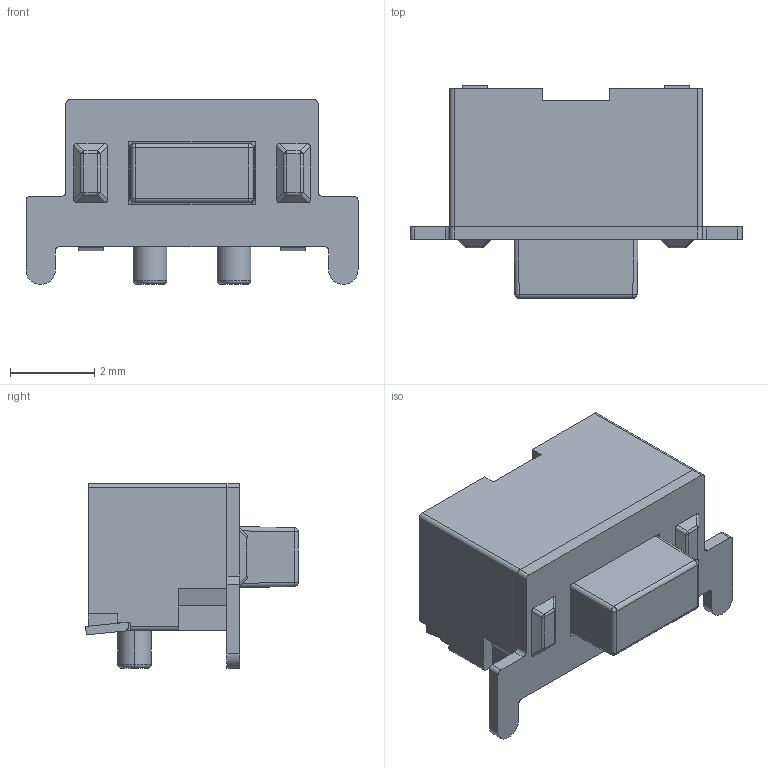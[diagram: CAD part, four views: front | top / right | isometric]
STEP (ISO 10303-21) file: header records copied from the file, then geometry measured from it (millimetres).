
FILE_DESCRIPTION((''),'2;1');
FILE_NAME('JQD3580-C0501-ADG-1-101_ASM','2026-05-21T19:42:32',('Admin'),(''),'CREO PARAMETRIC BY PTC INC, 2019224','CREO PARAMETRIC BY PTC INC, 2019224','');
FILE_SCHEMA(('AUTOMOTIVE_DESIGN { 1 0 10303 214 1 1 1 1 }'));
Length unit declared in the file: millimetre
Products named in the file (3): JQD3580-C0501-ADG-1-101_01; JQD3580-C0501-ADG-1-101_04; JQD3580-C0501-ADG-1-101_ASM
Assembly tree (2 placements, depth 2):
  JQD3580-C0501-ADG-1-101_ASM
    JQD3580-C0501-ADG-1-101_01
    JQD3580-C0501-ADG-1-101_04
Bounding box: 7.9 x 5.07 x 4.4 mm (x, y, z)
Volume: 80.8 mm3; surface area: 181.5 mm2
Topology: 2 solids, 2 shells, 153 faces, 382 edges, 244 vertices
Faces by surface type: plane 93, cylinder 44, sphere 12, torus 4
Entity records: 5956 total; most frequent: CARTESIAN_POINT 831, DIRECTION 778, ORIENTED_EDGE 760, EDGE_CURVE 380, PRESENTATION_STYLE_ASSIGNMENT 321, STYLED_ITEM 290, CURVE_STYLE 289, VECTOR 286
